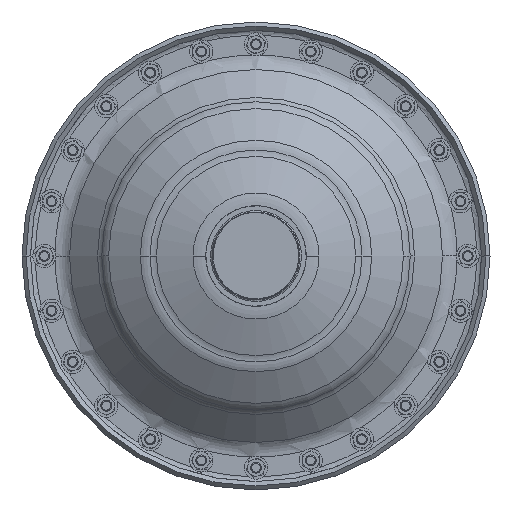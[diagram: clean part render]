
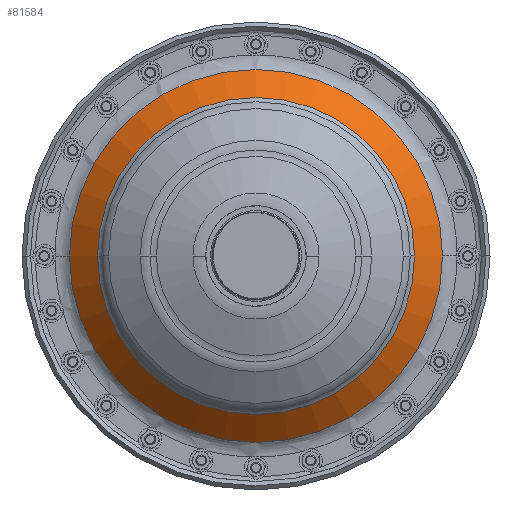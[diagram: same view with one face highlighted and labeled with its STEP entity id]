
A CAD part, front view. The second image highlights one B-rep face of the part: STEP entity #81584.
In plain terms, the highlighted spherical face has radius 253.4 mm.
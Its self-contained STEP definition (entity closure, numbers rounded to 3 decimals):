
#860 = EDGE_LOOP ( 'NONE', ( #14996, #75611 ) ) ;
#1444 = AXIS2_PLACEMENT_3D ( 'NONE', #45888, #70614, #6521 ) ;
#6521 = DIRECTION ( 'NONE',  ( -1., 0., 0. ) ) ;
#6601 = CARTESIAN_POINT ( 'NONE',  ( 0., -12.294, 0. ) ) ;
#7509 = EDGE_LOOP ( 'NONE', ( #12409, #79618 ) ) ;
#11052 = DIRECTION ( 'NONE',  ( -1., 0., 0. ) ) ;
#12409 = ORIENTED_EDGE ( 'NONE', *, *, #29599, .T. ) ;
#12688 = DIRECTION ( 'NONE',  ( 0., 1., 0. ) ) ;
#14996 = ORIENTED_EDGE ( 'NONE', *, *, #47677, .F. ) ;
#18092 = VERTEX_POINT ( 'NONE', #77581 ) ;
#19225 = CIRCLE ( 'NONE', #80105, 188.803 ) ;
#19905 = AXIS2_PLACEMENT_3D ( 'NONE', #52706, #79201, #20642 ) ;
#19975 = EDGE_CURVE ( 'NONE', #71304, #18092, #19225, .T. ) ;
#20642 = DIRECTION ( 'NONE',  ( -1., 0., 0. ) ) ;
#22222 = AXIS2_PLACEMENT_3D ( 'NONE', #51743, #32653, #11052 ) ;
#28649 = EDGE_CURVE ( 'NONE', #28670, #82607, #63597, .T. ) ;
#28670 = VERTEX_POINT ( 'NONE', #41481 ) ;
#29599 = EDGE_CURVE ( 'NONE', #82607, #28670, #37464, .T. ) ;
#32653 = DIRECTION ( 'NONE',  ( 0., 1., 0. ) ) ;
#37464 = CIRCLE ( 'NONE', #22222, 160.439 ) ;
#39051 = DIRECTION ( 'NONE',  ( -1., 0., 0. ) ) ;
#39261 = CARTESIAN_POINT ( 'NONE',  ( 0., 156.718, 0. ) ) ;
#41481 = CARTESIAN_POINT ( 'NONE',  ( 160.439, -39.422, 0. ) ) ;
#45888 = CARTESIAN_POINT ( 'NONE',  ( 0., -39.422, 0. ) ) ;
#47181 = CARTESIAN_POINT ( 'NONE',  ( -160.439, -39.422, 0. ) ) ;
#47677 = EDGE_CURVE ( 'NONE', #18092, #71304, #54526, .T. ) ;
#48238 = AXIS2_PLACEMENT_3D ( 'NONE', #39261, #57952, #84430 ) ;
#51743 = CARTESIAN_POINT ( 'NONE',  ( 0., -39.422, 0. ) ) ;
#52320 = SPHERICAL_SURFACE ( 'NONE', #48238, 253.4 ) ;
#52706 = CARTESIAN_POINT ( 'NONE',  ( 0., -12.294, 0. ) ) ;
#54526 = CIRCLE ( 'NONE', #19905, 188.803 ) ;
#57952 = DIRECTION ( 'NONE',  ( 0., -1., 0. ) ) ;
#58392 = FACE_OUTER_BOUND ( 'NONE', #860, .T. ) ;
#63597 = CIRCLE ( 'NONE', #1444, 160.439 ) ;
#70614 = DIRECTION ( 'NONE',  ( 0., 1., 0. ) ) ;
#71304 = VERTEX_POINT ( 'NONE', #74695 ) ;
#74695 = CARTESIAN_POINT ( 'NONE',  ( 188.803, -12.294, 0. ) ) ;
#75611 = ORIENTED_EDGE ( 'NONE', *, *, #19975, .F. ) ;
#77581 = CARTESIAN_POINT ( 'NONE',  ( -188.803, -12.294, 0. ) ) ;
#79201 = DIRECTION ( 'NONE',  ( 0., 1., 0. ) ) ;
#79618 = ORIENTED_EDGE ( 'NONE', *, *, #28649, .T. ) ;
#79630 = FACE_BOUND ( 'NONE', #7509, .T. ) ;
#80105 = AXIS2_PLACEMENT_3D ( 'NONE', #6601, #12688, #39051 ) ;
#81584 = ADVANCED_FACE ( 'NONE', ( #58392, #79630 ), #52320, .T. ) ;
#82607 = VERTEX_POINT ( 'NONE', #47181 ) ;
#84430 = DIRECTION ( 'NONE',  ( 1., 0., 0. ) ) ;
